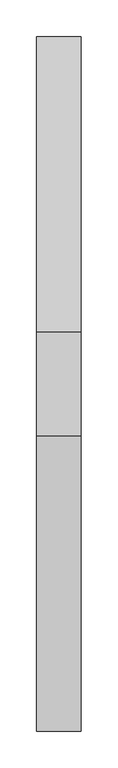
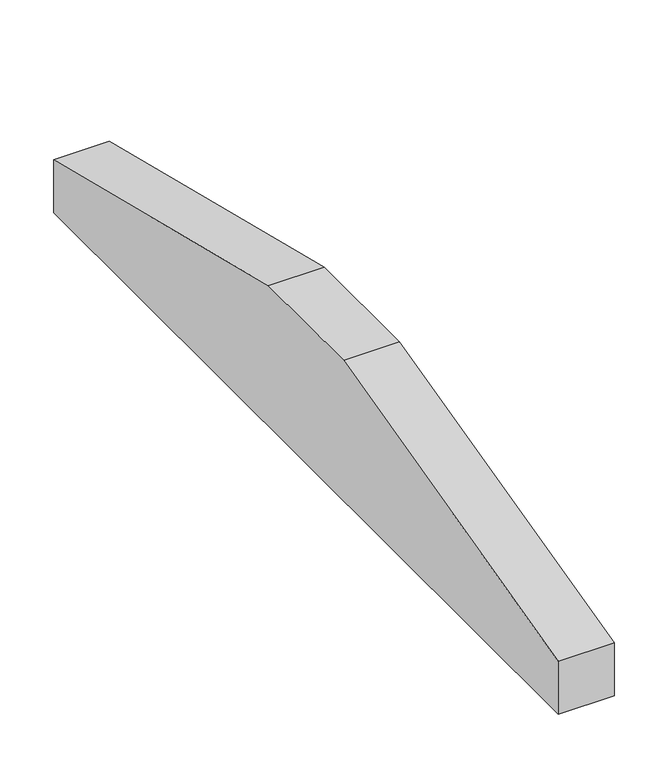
"""IFC4 building model written with IfcOpenShell, lengths in millimetres: proxy geometry, Modelos genéricos 166 : Modelos genéricos 144."""

from ifc_helpers import new_model, si_unit, frame, origin, place, context, project, spatial, polyline, outline, extrude, source, transform, mapped, element, save


def generic_models_5ad78916(model_context):
    return source(origin(), model_context, "Body", "SweptSolid", [
        extrude(outline(polyline([(2018.6238165, 4209.7515316), (2418.6238165, 4110.0203305), (2418.6238165, 4049.7515316), (1478.6238165, 4049.7515316), (1478.6238165, 4110.0203305), (1878.6238165, 4209.7515316), (2018.6238165, 4209.7515316)])), frame((58983.4472467, 0.0, 0.0), z_axis=(1.0, 0.0, 0.0), x_axis=(0.0, 1.0, 0.0)), (0.0, 0.0, 1.0), 60.0),
    ])


if __name__ == "__main__":
    model = new_model("IFC4")
    model_context = context("Model", 3, world=origin())
    ifc_project = project(units=[si_unit("LENGTHUNIT", "METRE", prefix="MILLI")], contexts=[model_context])
    site = spatial("IfcSite", under=ifc_project)
    building = spatial("IfcBuilding", under=site)
    placement = place(None, origin())
    generic_models_shape = generic_models_5ad78916(model_context)
    element("IfcBuildingElementProxy", 1, Name="Modelos genéricos 166 : Modelos genéricos 144", ObjectType="Modelos genéricos 166 : Modelos genéricos 144", at=placement, inside=building, context=model_context, shape_type="MappedRepresentation", body=[
        mapped(generic_models_shape, transform((0.0, 0.0, 0.0), x_axis=(1.0, 0.0, 0.0), y_axis=(0.0, 1.0, 0.0), z_axis=(0.0, 0.0, 1.0))),
    ])
    save(model, "model.ifc")
